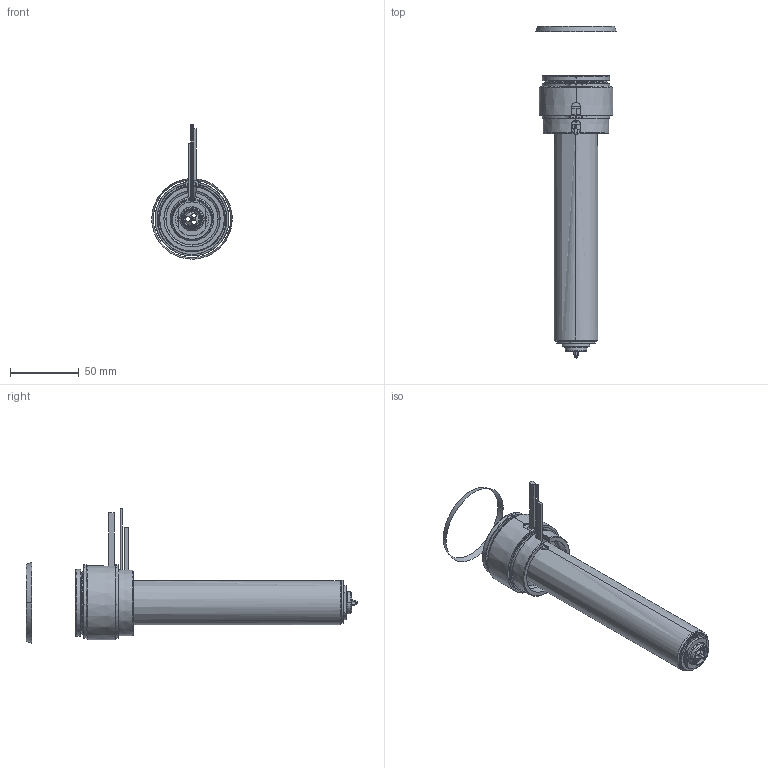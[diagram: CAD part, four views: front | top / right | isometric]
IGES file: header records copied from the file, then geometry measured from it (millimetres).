
Start section: SolidWorks IGES file using analytic representation for surfaces
Global section: file name: C:\Documents and Settings\ws-20\Desktop\TEM\UGEP5504-S-A-1 [Øf-1.55 ØC-12].IGS; native system: SolidWorks 2012; preprocessor: SolidWorks 2012; author: ws-20; date: 120427.080514; units: millimetre
Bounding box: 58.79 x 242.24 x 98.01 mm (x, y, z)
Surface area: 85235.1 mm2 (no closed solid volume)
Topology: 0 solids, 0 shells, 178 faces, 3636 edges, 3636 vertices
Faces by surface type: revolution 115, bspline 63
